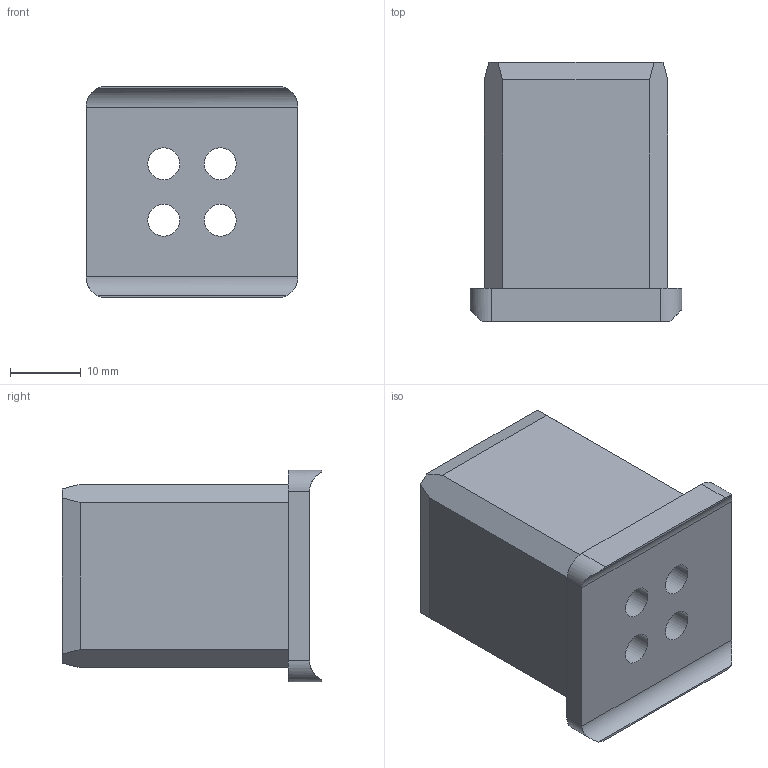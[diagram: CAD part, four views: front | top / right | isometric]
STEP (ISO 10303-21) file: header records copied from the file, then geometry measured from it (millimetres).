
FILE_DESCRIPTION (( 'STEP AP214' ), '1' );
FILE_NAME ('L15811.step', '2024-12-03T16:19:02', ( '' ), ( '' ), 'SwSTEP 2.0', 'SolidWorks 2023', '' );
FILE_SCHEMA (( 'AUTOMOTIVE_DESIGN' ));
Length unit declared in the file: millimetre
Products named in the file (1): L15811
Bounding box: 30 x 36.7 x 30 mm (x, y, z)
Volume: 10747.6 mm3; surface area: 8014.9 mm2
Topology: 1 solids, 1 shells, 36 faces, 96 edges, 64 vertices
Faces by surface type: plane 26, cylinder 10
Full cylindrical faces by diameter (mm): 4.5 x4
Entity records: 1099 total; most frequent: CARTESIAN_POINT 197, ORIENTED_EDGE 176, DIRECTION 174, EDGE_CURVE 88, LINE 68, VECTOR 68, VERTEX_POINT 60, AXIS2_PLACEMENT_3D 53
